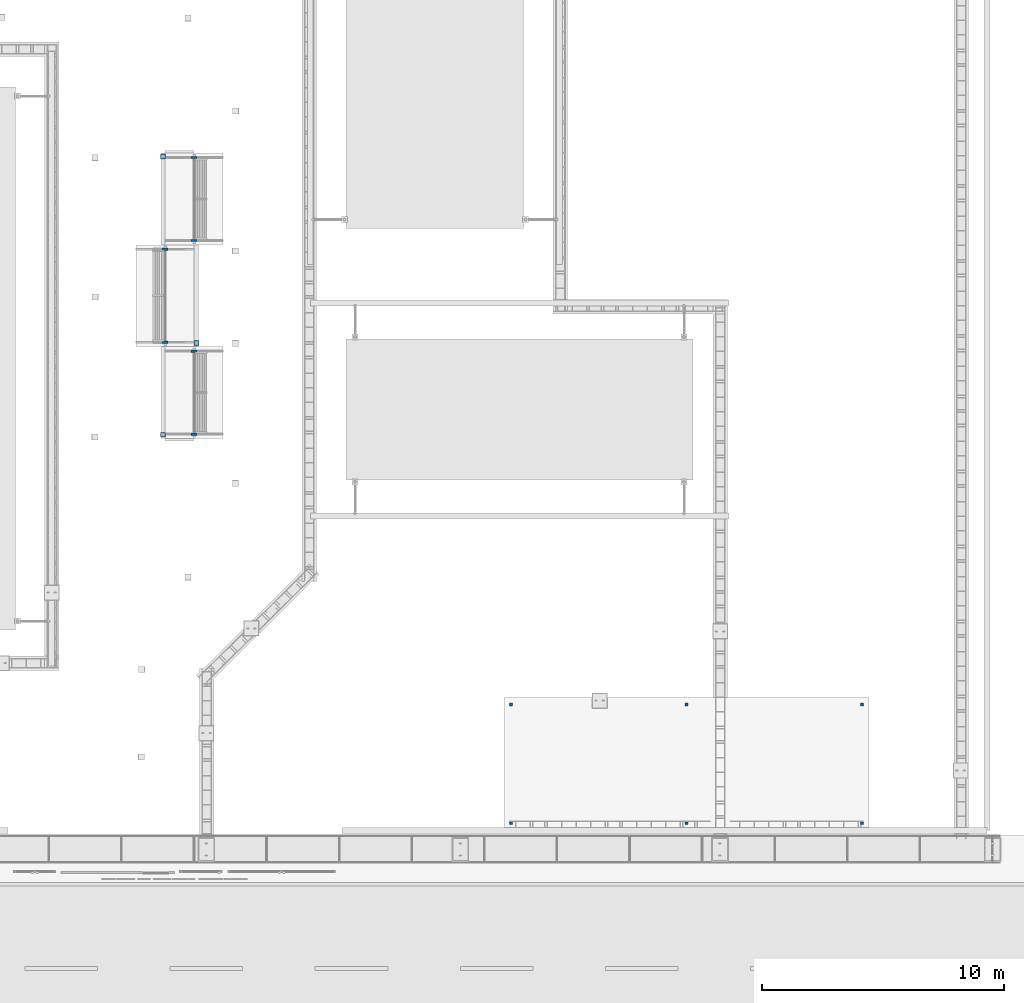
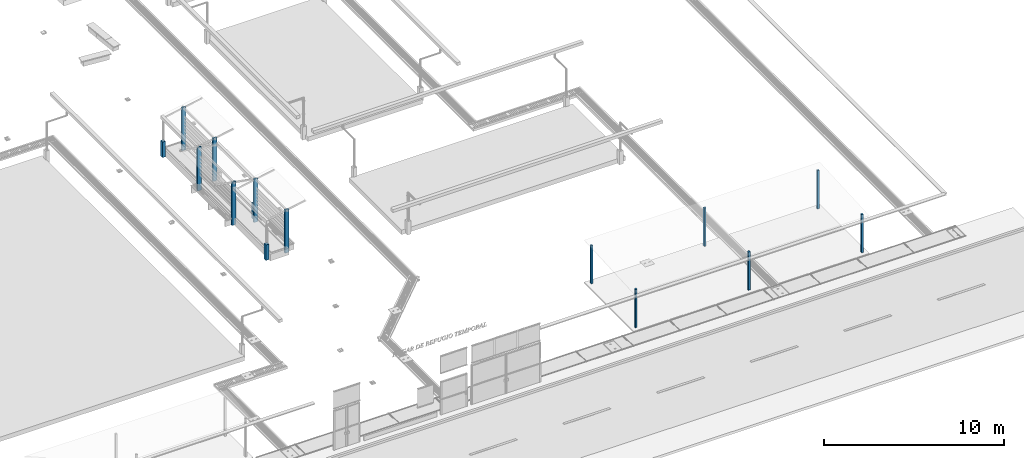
# One storey, part 2 of 90: 15 columns.
"""IFC2X3 building model written with IfcOpenShell, lengths in metres."""

import ifcopenshell
import ifcopenshell.guid

model = None  # the IFC model being written
_history = None  # IfcOwnerHistory: only IFC2X3 demands one
_inside = {}  # id of a spatial element -> (the spatial element, [elements in it])
_under = {}  # id of a project, library or spatial element -> (it, [spatial elements below it])
_declared = {}  # id of a project -> (the project, [libraries it declares])
_typed = {}  # id of a type object -> (the type object, [elements of that type])
_made_of = {}  # id of a material, layer set ... -> (it, [elements and type objects made of it])


def new_model(schema):
    """Start an empty IFC model of exactly this schema.

    Asked for "IFC4X3", IfcOpenShell would pick the latest addendum, in which some entities
    have other attributes; the version numbers below select the first issue.
    IFC2X3 requires an IfcOwnerHistory on every rooted entity: one is made here for all.
    """
    global model, _history
    if schema == "IFC4X3":
        model = ifcopenshell.file(schema_version=(4, 3, 0, 0))
    else:
        model = ifcopenshell.file(schema=schema)
    _inside.clear()
    _under.clear()
    _declared.clear()
    _typed.clear()
    _made_of.clear()
    _history = None
    if model.schema == "IFC2X3":
        org = make("IfcOrganization", Name="unknown")
        user = make(
            "IfcPersonAndOrganization",
            ThePerson=make("IfcPerson", FamilyName="unknown"),
            TheOrganization=org,
        )
        app = make(
            "IfcApplication",
            ApplicationDeveloper=org,
            Version="unknown",
            ApplicationFullName="unknown",
            ApplicationIdentifier="unknown",
        )
        _history = make(
            "IfcOwnerHistory",
            OwningUser=user,
            OwningApplication=app,
            ChangeAction="ADDED",
            CreationDate=0,
        )
    return model


def make(cls, **values):
    """One entity of the class cls with the attributes given. An attribute that is None is left unset."""
    return model.create_entity(
        cls, **{name: value for name, value in values.items() if value is not None}
    )


def rooted(cls, **values):
    """An entity with a GlobalId (a new one), such as an element, a storey or a relation."""
    return make(cls, GlobalId=ifcopenshell.guid.new(), OwnerHistory=_history, **values)


def si_unit(unit_type, name, prefix=None):
    """IfcSIUnit, for example si_unit("LENGTHUNIT", "METRE", prefix="MILLI")."""
    return make("IfcSIUnit", UnitType=unit_type, Prefix=prefix, Name=name)


def assignment(units):
    """IfcUnitAssignment: the units of a project."""
    return None if units is None else make("IfcUnitAssignment", Units=units)


def point(xyz):
    """IfcCartesianPoint."""
    return None if xyz is None else make("IfcCartesianPoint", Coordinates=xyz)


def direction(xyz):
    """IfcDirection."""
    return None if xyz is None else make("IfcDirection", DirectionRatios=xyz)


def frame(location, z_axis=None, x_axis=None):
    """IfcAxis2Placement3D, a coordinate frame: its origin and axes. An axis left out is left unset."""
    return make(
        "IfcAxis2Placement3D",
        Location=point(location),
        Axis=direction(z_axis),
        RefDirection=direction(x_axis),
    )


def origin():
    """The frame at (0, 0, 0) with its axes left unset."""
    return frame((0.0, 0.0, 0.0))


def origin_with_axes():
    """The frame at (0, 0, 0) with the z axis (0, 0, 1) and the x axis (1, 0, 0) written out."""
    return frame((0.0, 0.0, 0.0), z_axis=(0.0, 0.0, 1.0), x_axis=(1.0, 0.0, 0.0))


def place(relative_to, where):
    """IfcLocalPlacement: puts the frame where relative to a parent placement (None: the world)."""
    return make(
        "IfcLocalPlacement", PlacementRelTo=relative_to, RelativePlacement=where
    )


def context(
    kind, dimensions, precision=None, world=None, true_north=None, identifier=None
):
    """IfcGeometricRepresentationContext, for example the 3D "Model" context."""
    return make(
        "IfcGeometricRepresentationContext",
        ContextIdentifier=identifier,
        ContextType=kind,
        CoordinateSpaceDimension=dimensions,
        Precision=precision,
        WorldCoordinateSystem=world,
        TrueNorth=true_north,
    )


def subcontext(parent, identifier, kind, view, scale=None):
    """IfcGeometricRepresentationSubContext, for example "Body" below "Model"."""
    return make(
        "IfcGeometricRepresentationSubContext",
        ContextIdentifier=identifier,
        ContextType=kind,
        ParentContext=parent,
        TargetScale=scale,
        TargetView=view,
    )


def project(units=None, contexts=None):
    """IfcProject with its units and contexts."""
    return rooted(
        "IfcProject",
        Name="project",
        RepresentationContexts=contexts,
        UnitsInContext=assignment(units),
    )


def spatial(cls, under=None, at=None, **own):
    """A site, building, storey or space (cls), placed at a placement, below another one or the project."""
    s = rooted(cls, ObjectPlacement=at, **own)
    if under is not None:
        _under.setdefault(under.id(), (under, []))[1].append(s)
    return s


def faces_of(points, faces, orient=None, outer=None):
    """IfcFace entities. A face is a list of loops; a loop is a list of indices into points, from 0.

    orient and outer hold one flag for each loop. By default every Orientation is true, the
    first loop of a face is its IfcFaceOuterBound and the others are IfcFaceBound.
    """
    made = []
    for i, loops in enumerate(faces):
        bounds = []
        for j, loop in enumerate(loops):
            is_outer = j == 0 if outer is None else outer[i][j]
            bounds.append(
                make(
                    "IfcFaceOuterBound" if is_outer else "IfcFaceBound",
                    Bound=make("IfcPolyLoop", Polygon=[points[k] for k in loop]),
                    Orientation=True if orient is None else orient[i][j],
                )
            )
        made.append(make("IfcFace", Bounds=bounds))
    return made


def faceted_brep(points, faces, orient=None, outer=None, voids=None):
    """IfcFacetedBrep: a solid bounded by flat faces; with voids (closed shells), ...WithVoids."""
    shared = [point(p) for p in points]
    hull = make("IfcClosedShell", CfsFaces=faces_of(shared, faces, orient, outer))
    if voids is None:
        return make("IfcFacetedBrep", Outer=hull)
    return make(
        "IfcFacetedBrepWithVoids",
        Outer=hull,
        Voids=[
            make(cls, CfsFaces=faces_of(shared, fs, o, b)) for cls, fs, o, b in voids
        ],
    )


def shape(context_of_items, identifier, shape_type, items):
    """IfcShapeRepresentation: the items that make up one representation, for example the "Body"."""
    return make(
        "IfcShapeRepresentation",
        ContextOfItems=context_of_items,
        RepresentationIdentifier=identifier,
        RepresentationType=shape_type,
        Items=items,
    )


def made_of(thing, what):
    """Note that an element or type object is made of a material, layer set ...; save() writes the relation."""
    if what is not None:
        _made_of.setdefault(what.id(), (what, []))[1].append(thing)
    return thing


def element(
    cls,
    number,
    at=None,
    inside=None,
    cuts=None,
    type_object=None,
    material=None,
    context=None,
    identifier="Body",
    shape_type=None,
    held_by="IfcProductDefinitionShape",
    body=None,
    shapes=None,
    **own,
):
    """One element of the class cls, such as IfcWall. Its Tag is "e" and its number.

    at: its placement. inside: the storey or other place that contains it. cuts: it is an
    opening in that element (IfcRelVoidsElement). A single representation is given by context,
    identifier, shape_type and body (its items); several are given by shapes. held_by: the class
    of the entity that holds the representations. save() writes the other relations.
    """
    e = rooted(cls, Tag="e%d" % number, ObjectPlacement=at, **own)
    if body is not None:
        shapes = [shape(context, identifier, shape_type, body)]
    if shapes is not None:
        e.Representation = make(held_by, Representations=shapes)
    if inside is not None:
        _inside.setdefault(inside.id(), (inside, []))[1].append(e)
    if cuts is not None:
        rooted(
            "IfcRelVoidsElement", RelatingBuildingElement=cuts, RelatedOpeningElement=e
        )
    if type_object is not None:
        _typed.setdefault(type_object.id(), (type_object, []))[1].append(e)
    return made_of(e, material)


def aggregate(whole, parts):
    """IfcRelAggregates: a whole, such as a stair, and the parts it consists of."""
    return rooted("IfcRelAggregates", RelatingObject=whole, RelatedObjects=parts)


def save(model, path):
    """Write the relations noted so far, then the file.

    IfcRelAggregates (storeys below a building ...), IfcRelContainedInSpatialStructure (elements
    in a storey), IfcRelDefinesByType, IfcRelAssociatesMaterial and IfcRelDeclares: one each for
    every whole, place, type object, material and project.
    """
    for whole, parts in _under.values():
        aggregate(whole, parts)
    for where, things in _inside.values():
        rooted(
            "IfcRelContainedInSpatialStructure",
            RelatedElements=things,
            RelatingStructure=where,
        )
    for kind, things in _typed.values():
        rooted("IfcRelDefinesByType", RelatedObjects=things, RelatingType=kind)
    for what, things in _made_of.values():
        rooted("IfcRelAssociatesMaterial", RelatedObjects=things, RelatingMaterial=what)
    for by, libraries in _declared.values():
        rooted("IfcRelDeclares", RelatingContext=by, RelatedDefinitions=libraries)
    model.write(path)


model = new_model("IFC2X3")

# Units and contexts
model_context = context("Model", 3, precision=1e-05, world=origin_with_axes())
body_context = subcontext(model_context, "Body", "Model", "MODEL_VIEW")
ifc_project = project(units=[si_unit("LENGTHUNIT", "METRE"), si_unit("AREAUNIT", "SQUARE_METRE"), si_unit("VOLUMEUNIT", "CUBIC_METRE"), si_unit("PLANEANGLEUNIT", "RADIAN")], contexts=[model_context])

# Site, building, storey
site_placement = place(None, origin_with_axes())
site = spatial("IfcSite", under=ifc_project, at=site_placement, Name="Predio Los Mangos - Morales, San Martín", CompositionType="ELEMENT")
building_placement = place(site_placement, origin())
building = spatial("IfcBuilding", under=site, at=building_placement, Name="Hogar de Refugio Temporal", CompositionType="ELEMENT")
storey_placement = place(building_placement, origin())
storey = spatial("IfcBuildingStorey", under=building, at=storey_placement, Name="NIVEL 1 (NPT +0.00)", CompositionType="ELEMENT", Elevation=0.0)

# Columns
column_1_placement = place(storey_placement, origin())
element("IfcColumn", 1, at=column_1_placement, inside=storey, Name="poste_autos", ObjectType="Columna", context=body_context, shape_type="Brep", body=[
    faceted_brep([(52.04, 18.24, 0.1), (52.04, 18.36, 0.1), (52.16, 18.36, 0.1), (52.16, 18.24, 0.1), (52.04, 18.24, 2.7), (52.16, 18.24, 2.7), (52.16, 18.36, 2.7), (52.04, 18.36, 2.7)], [[[0, 1, 2, 3]], [[4, 5, 6, 7]], [[0, 3, 5, 4]], [[3, 2, 6, 5]], [[2, 1, 7, 6]], [[1, 0, 4, 7]]]),
])
column_2_placement = place(storey_placement, origin())
element("IfcColumn", 2, at=column_2_placement, inside=storey, Name="poste_autos", ObjectType="Columna", context=body_context, shape_type="Brep", body=[
    faceted_brep([(52.04, 23.14, 0.1), (52.04, 23.26, 0.1), (52.16, 23.26, 0.1), (52.16, 23.14, 0.1), (52.04, 23.14, 2.7), (52.16, 23.14, 2.7), (52.16, 23.26, 2.7), (52.04, 23.26, 2.7)], [[[0, 1, 2, 3]], [[4, 5, 6, 7]], [[0, 3, 5, 4]], [[3, 2, 6, 5]], [[2, 1, 7, 6]], [[1, 0, 4, 7]]]),
])
column_3_placement = place(storey_placement, origin())
element("IfcColumn", 3, at=column_3_placement, inside=storey, Name="poste_autos", ObjectType="Columna", context=body_context, shape_type="Brep", body=[
    faceted_brep([(59.29, 18.24, 0.1), (59.29, 18.36, 0.1), (59.41, 18.36, 0.1), (59.41, 18.24, 0.1), (59.29, 18.24, 2.7), (59.41, 18.24, 2.7), (59.41, 18.36, 2.7), (59.29, 18.36, 2.7)], [[[0, 1, 2, 3]], [[4, 5, 6, 7]], [[0, 3, 5, 4]], [[3, 2, 6, 5]], [[2, 1, 7, 6]], [[1, 0, 4, 7]]]),
])
column_4_placement = place(storey_placement, origin())
element("IfcColumn", 4, at=column_4_placement, inside=storey, Name="poste_autos", ObjectType="Columna", context=body_context, shape_type="Brep", body=[
    faceted_brep([(59.29, 23.14, 0.1), (59.29, 23.26, 0.1), (59.41, 23.26, 0.1), (59.41, 23.14, 0.1), (59.29, 23.14, 2.7), (59.41, 23.14, 2.7), (59.41, 23.26, 2.7), (59.29, 23.26, 2.7)], [[[0, 1, 2, 3]], [[4, 5, 6, 7]], [[0, 3, 5, 4]], [[3, 2, 6, 5]], [[2, 1, 7, 6]], [[1, 0, 4, 7]]]),
])
column_5_placement = place(storey_placement, origin())
element("IfcColumn", 5, at=column_5_placement, inside=storey, Name="poste_autos", ObjectType="Columna", context=body_context, shape_type="Brep", body=[
    faceted_brep([(66.54, 18.24, 0.1), (66.54, 18.36, 0.1), (66.66, 18.36, 0.1), (66.66, 18.24, 0.1), (66.54, 18.24, 2.7), (66.66, 18.24, 2.7), (66.66, 18.36, 2.7), (66.54, 18.36, 2.7)], [[[0, 1, 2, 3]], [[4, 5, 6, 7]], [[0, 3, 5, 4]], [[3, 2, 6, 5]], [[2, 1, 7, 6]], [[1, 0, 4, 7]]]),
])
column_6_placement = place(storey_placement, origin())
element("IfcColumn", 6, at=column_6_placement, inside=storey, Name="poste_autos", ObjectType="Columna", context=body_context, shape_type="Brep", body=[
    faceted_brep([(66.54, 23.14, 0.1), (66.54, 23.26, 0.1), (66.66, 23.26, 0.1), (66.66, 23.14, 0.1), (66.54, 23.14, 2.7), (66.66, 23.14, 2.7), (66.66, 23.26, 2.7), (66.54, 23.26, 2.7)], [[[0, 1, 2, 3]], [[4, 5, 6, 7]], [[0, 3, 5, 4]], [[3, 2, 6, 5]], [[2, 1, 7, 6]], [[1, 0, 4, 7]]]),
])
column_7_placement = place(storey_placement, origin())
element("IfcColumn", 7, at=column_7_placement, inside=storey, Name="oc01_columna", ObjectType="Columna", context=body_context, shape_type="Brep", body=[
    faceted_brep([(39.125, 34.335, 0.0), (38.875, 34.335, 0.0), (38.875, 34.435, 0.0), (39.125, 34.435, 0.0), (39.125, 34.335, 2.93), (39.125, 34.435, 2.93), (38.875, 34.435, 2.93), (38.875, 34.335, 2.93)], [[[0, 1, 2, 3]], [[4, 5, 6, 7]], [[0, 3, 5, 4]], [[3, 2, 6, 5]], [[2, 1, 7, 6]], [[1, 0, 4, 7]]]),
])
column_8_placement = place(storey_placement, origin())
element("IfcColumn", 8, at=column_8_placement, inside=storey, Name="oc01_columna", ObjectType="Columna", context=body_context, shape_type="Brep", body=[
    faceted_brep([(39.125, 37.765, 0.0), (38.875, 37.765, 0.0), (38.875, 37.865, 0.0), (39.125, 37.865, 0.0), (39.125, 37.765, 2.93), (39.125, 37.865, 2.93), (38.875, 37.865, 2.93), (38.875, 37.765, 2.93)], [[[0, 1, 2, 3]], [[4, 5, 6, 7]], [[0, 3, 5, 4]], [[3, 2, 6, 5]], [[2, 1, 7, 6]], [[1, 0, 4, 7]]]),
])
column_9_placement = place(storey_placement, origin())
element("IfcColumn", 9, at=column_9_placement, inside=storey, Name="oc01_falsa_columna", ObjectType="Falsa columna", context=body_context, shape_type="Brep", body=[
    faceted_brep([(37.81, 34.255, 0.0), (37.61, 34.255, 0.0), (37.61, 34.455, 0.0), (37.81, 34.455, 0.0), (37.81, 34.255, 1.05), (37.81, 34.455, 1.05), (37.61, 34.455, 1.05), (37.61, 34.255, 1.05)], [[[0, 1, 2, 3]], [[4, 5, 6, 7]], [[0, 3, 5, 4]], [[3, 2, 6, 5]], [[2, 1, 7, 6]], [[1, 0, 4, 7]]]),
])
column_10_placement = place(storey_placement, origin())
element("IfcColumn", 10, at=column_10_placement, inside=storey, Name="oc01_columna", ObjectType="Columna", context=body_context, shape_type="Brep", body=[
    faceted_brep([(37.925, 38.125, 0.0), (37.675, 38.125, 0.0), (37.675, 38.225, 0.0), (37.925, 38.225, 0.0), (37.925, 38.125, 2.93), (37.925, 38.225, 2.93), (37.675, 38.225, 2.93), (37.675, 38.125, 2.93)], [[[0, 1, 2, 3]], [[4, 5, 6, 7]], [[0, 3, 5, 4]], [[3, 2, 6, 5]], [[2, 1, 7, 6]], [[1, 0, 4, 7]]]),
])
column_11_placement = place(storey_placement, origin())
element("IfcColumn", 11, at=column_11_placement, inside=storey, Name="oc01_columna", ObjectType="Columna", context=body_context, shape_type="Brep", body=[
    faceted_brep([(37.925, 41.975, 0.0), (37.675, 41.975, 0.0), (37.675, 42.075, 0.0), (37.925, 42.075, 0.0), (37.925, 41.975, 2.93), (37.925, 42.075, 2.93), (37.675, 42.075, 2.93), (37.675, 41.975, 2.93)], [[[0, 1, 2, 3]], [[4, 5, 6, 7]], [[0, 3, 5, 4]], [[3, 2, 6, 5]], [[2, 1, 7, 6]], [[1, 0, 4, 7]]]),
])
column_12_placement = place(storey_placement, origin())
element("IfcColumn", 12, at=column_12_placement, inside=storey, Name="oc01_falsa_columna", ObjectType="Falsa columna", context=body_context, shape_type="Brep", body=[
    faceted_brep([(39.19, 38.045, 0.0), (38.99, 38.045, 0.0), (38.99, 38.245, 0.0), (39.19, 38.245, 0.0), (39.19, 38.045, 1.05), (39.19, 38.245, 1.05), (38.99, 38.245, 1.05), (38.99, 38.045, 1.05)], [[[0, 1, 2, 3]], [[4, 5, 6, 7]], [[0, 3, 5, 4]], [[3, 2, 6, 5]], [[2, 1, 7, 6]], [[1, 0, 4, 7]]]),
])
column_13_placement = place(storey_placement, origin())
element("IfcColumn", 13, at=column_13_placement, inside=storey, Name="oc01_columna", ObjectType="Columna", context=body_context, shape_type="Brep", body=[
    faceted_brep([(39.125, 42.335, 0.0), (38.875, 42.335, 0.0), (38.875, 42.435, 0.0), (39.125, 42.435, 0.0), (39.125, 42.335, 2.93), (39.125, 42.435, 2.93), (38.875, 42.435, 2.93), (38.875, 42.335, 2.93)], [[[0, 1, 2, 3]], [[4, 5, 6, 7]], [[0, 3, 5, 4]], [[3, 2, 6, 5]], [[2, 1, 7, 6]], [[1, 0, 4, 7]]]),
])
column_14_placement = place(storey_placement, origin())
element("IfcColumn", 14, at=column_14_placement, inside=storey, Name="oc01_columna", ObjectType="Columna", context=body_context, shape_type="Brep", body=[
    faceted_brep([(39.125, 45.765, 0.0), (38.875, 45.765, 0.0), (38.875, 45.865, 0.0), (39.125, 45.865, 0.0), (39.125, 45.765, 2.93), (39.125, 45.865, 2.93), (38.875, 45.865, 2.93), (38.875, 45.765, 2.93)], [[[0, 1, 2, 3]], [[4, 5, 6, 7]], [[0, 3, 5, 4]], [[3, 2, 6, 5]], [[2, 1, 7, 6]], [[1, 0, 4, 7]]]),
])
column_15_placement = place(storey_placement, origin())
element("IfcColumn", 15, at=column_15_placement, inside=storey, Name="oc01_falsa_columna", ObjectType="Falsa columna", context=body_context, shape_type="Brep", body=[
    faceted_brep([(37.81, 45.755, 0.0), (37.61, 45.755, 0.0), (37.61, 45.955, 0.0), (37.81, 45.955, 0.0), (37.81, 45.755, 1.05), (37.81, 45.955, 1.05), (37.61, 45.955, 1.05), (37.61, 45.755, 1.05)], [[[0, 1, 2, 3]], [[4, 5, 6, 7]], [[0, 3, 5, 4]], [[3, 2, 6, 5]], [[2, 1, 7, 6]], [[1, 0, 4, 7]]]),
])

save(model, "model.ifc")
